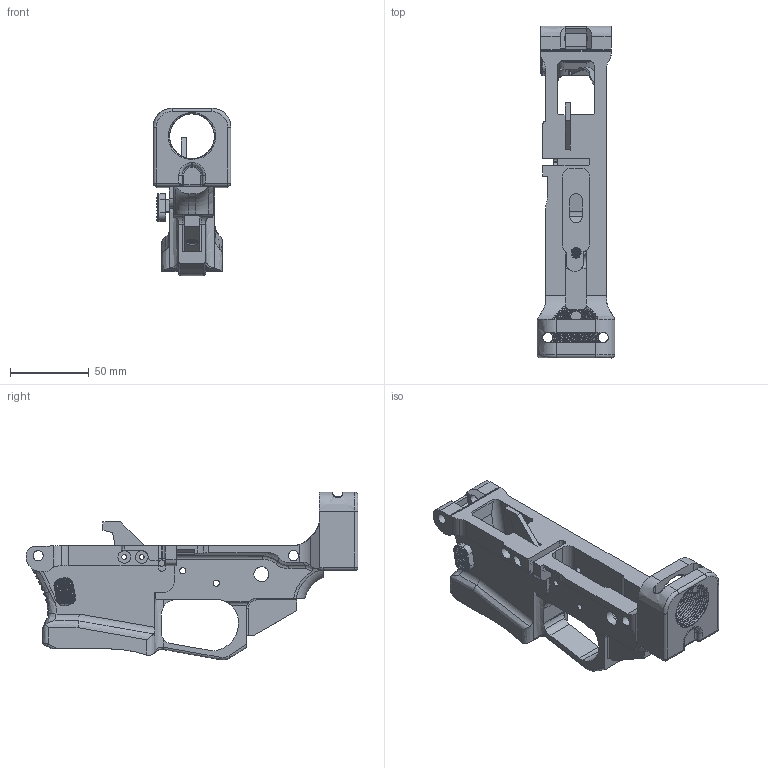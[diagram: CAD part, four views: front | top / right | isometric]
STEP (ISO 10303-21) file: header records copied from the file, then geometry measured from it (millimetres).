
FILE_DESCRIPTION(/* description */ (''),/* implementation_level */ '2;1');
FILE_NAME(/* name */ 'PCC 1.0/STEP/Lowers/AR-9 Glock - BHO - Final (1).step',/* time_stamp */ '2022-04-06T16:39:20-04:00',/* author */ (''),/* organization */ (''),/* preprocessor_version */ 'ST-DEVELOPER v18.1',/* originating_system */ 'Autodesk Translation Framework v10.14.0.1471',/* authorisation */ '');
FILE_SCHEMA (('AUTOMOTIVE_DESIGN { 1 0 10303 214 3 1 1 }'));
Products named in the file (5): AR-9 Glock - BHO - Final (1); Mag Catch Button (4); Mag Catch Long (3); Frame (3) (2); Ejector (4) (2)
Assembly tree (4 placements, depth 2):
  AR-9 Glock - BHO - Final (1)
    Mag Catch Button (4)
    Mag Catch Long (3)
    Frame (3) (2)
    Ejector (4) (2)
Bounding box: 49.27 x 210.48 x 106.26 mm (x, y, z)
Volume: 218652.3 mm3; surface area: 70386 mm2
Topology: 4 solids, 4 shells, 826 faces, 2280 edges, 1448 vertices
Faces by surface type: cylinder 306, plane 258, bspline 236, torus 16, cone 6, sphere 4
Full cylindrical faces by diameter (mm): 3 x6, 3.175 x1, 3.962 x4, 5.172 x21, 6.35 x20, 6.5 x6, 6.75 x1, 8 x4, 9.525 x2, 28.47 x9, 30.043 x9
Entity records: 50178 total; most frequent: CARTESIAN_POINT 31042, ORIENTED_EDGE 4526, DIRECTION 3108, EDGE_CURVE 2263, VERTEX_POINT 1444, AXIS2_PLACEMENT_3D 1100, LINE 908, VECTOR 908
